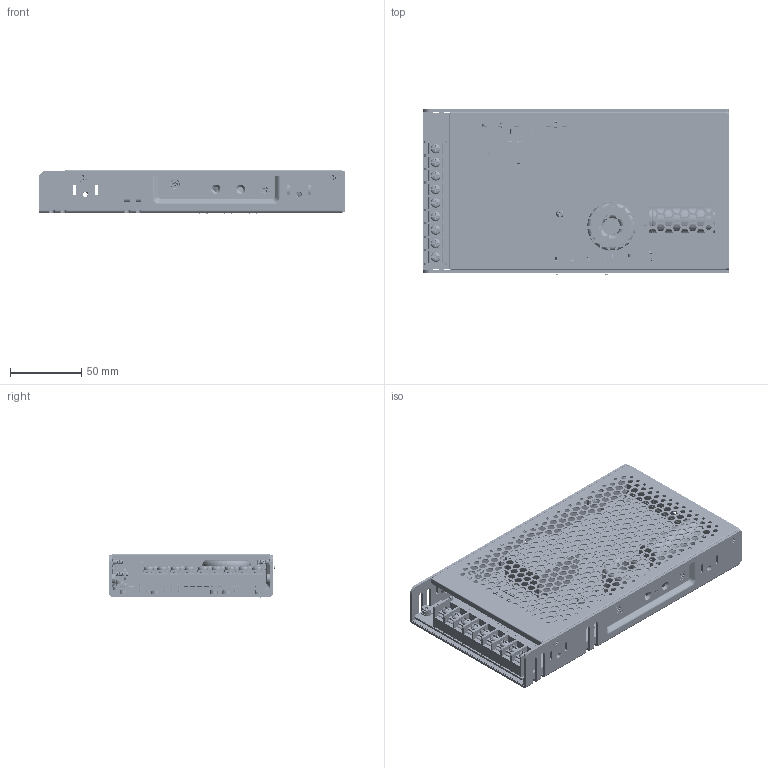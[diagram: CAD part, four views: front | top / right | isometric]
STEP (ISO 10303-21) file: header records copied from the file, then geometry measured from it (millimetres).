
FILE_DESCRIPTION((''),'2;1');
FILE_NAME('GSP200W-1','2025-08-01T',('Administrator'),(''),'PRO/ENGINEER BY PARAMETRIC TECHNOLOGY CORPORATION, 2014090','PRO/ENGINEER BY PARAMETRIC TECHNOLOGY CORPORATION, 2014090','');
FILE_SCHEMA(('CONFIG_CONTROL_DESIGN'));
Products named in the file (60): GSP350CW-BOTTOM-V6_9_A; LZ_3X6_2_6_A; GW-ICPS350W24AA-BOTTOM_ASM_4_AS; PRT0212_2_A; ASM1269_ASM_1_ASM_A; ASM1268_ASM_2_ASM_A; GW-GSP350WV0120240601_ASM_1_ASM; 1224042-PLASTIC_2_4_A; MFR-04424____1_2_A; MFR-04424-1____1_2_A; MFR-04424____ASM_1_ASM_2_ASM_A; M4-_1_2_A; M4_ASM_2_ASM_2_ASM_A; MFR-04424____ASM_1_ASM_2_ASM1_A; M4_ASM_2_ASM_2_ASM1_A; MFR-04424____ASM_1_ASM_2_ASM2_A; M4_ASM_2_ASM_2_ASM2_A; MFR-04424____ASM_1_ASM_2_ASM3_A; M4_ASM_2_ASM_2_ASM3_A; MFR-04424____ASM_1_ASM_2_ASM4_A; M4_ASM_2_ASM_2_ASM4_A; MFR-04424____ASM_1_ASM_2_ASM5_A; M4_ASM_2_ASM_2_ASM5_A; MFR-04424____ASM_1_ASM_2_ASM6_A; M4_ASM_2_ASM_2_ASM6_A; MFR-04424____ASM_1_ASM_2_ASM7_A; M4_ASM_2_ASM_2_ASM7_A; MFR-04424____ASM_1_ASM_2_ASM8_A; M4_ASM_2_ASM_2_ASM8_A; 1224042_ASM_3_ASM_2_ASM_A; 1224711_BKT_3_A; KM3X10_5_A; BKT-1_ASM_5_ASM_A; BKT-1_ASM_5_ASM1_A; M3X6_GB9074_4_2_A; CAPC2-7_5-18X45L__1_5__2_A; T201_1_A; TO-220-3-2_5-4_5MM_5_A; MANIFOLD_SOLID_BREP_155245_AF0_; MANIFOLD_SOLID_BREP_155593_AF0_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
Assembly tree (101 placements, depth 7):
  GSP200W-1
    GSP350W_A
      GW-ICPS350W24AA-BOTTOM_ASM_4_AS
        GSP350CW-BOTTOM-V6_9_A
        LZ_3X6_2_6_A  x5
      PCBA-GW-ICPS350W24AA_ASM_11_ASM
        GW-GSP350WV0120240601_ASM_1_ASM
          ASM1268_ASM_2_ASM_A
            ASM1269_ASM_1_ASM_A
              PRT0212_2_A
        1224042_ASM_3_ASM_2_ASM_A
          1224042-PLASTIC_2_4_A
          M4_ASM_2_ASM_2_ASM_A
            MFR-04424____ASM_1_ASM_2_ASM_A
              MFR-04424____1_2_A
              MFR-04424-1____1_2_A
            M4-_1_2_A
          M4_ASM_2_ASM_2_ASM1_A
            MFR-04424____ASM_1_ASM_2_ASM1_A
              MFR-04424____1_2_A
              MFR-04424-1____1_2_A
            M4-_1_2_A
          M4_ASM_2_ASM_2_ASM2_A
            MFR-04424____ASM_1_ASM_2_ASM2_A
              MFR-04424____1_2_A
              MFR-04424-1____1_2_A
            M4-_1_2_A
          M4_ASM_2_ASM_2_ASM3_A
            MFR-04424____ASM_1_ASM_2_ASM3_A
              MFR-04424____1_2_A
              MFR-04424-1____1_2_A
            M4-_1_2_A
          M4_ASM_2_ASM_2_ASM4_A
            MFR-04424____ASM_1_ASM_2_ASM4_A
              MFR-04424____1_2_A
              MFR-04424-1____1_2_A
            M4-_1_2_A
          M4_ASM_2_ASM_2_ASM5_A
            MFR-04424____ASM_1_ASM_2_ASM5_A
              MFR-04424____1_2_A
              MFR-04424-1____1_2_A
            M4-_1_2_A
          M4_ASM_2_ASM_2_ASM6_A
            MFR-04424____ASM_1_ASM_2_ASM6_A
              MFR-04424____1_2_A
              MFR-04424-1____1_2_A
            M4-_1_2_A
          M4_ASM_2_ASM_2_ASM7_A
            MFR-04424____ASM_1_ASM_2_ASM7_A
              MFR-04424____1_2_A
              MFR-04424-1____1_2_A
            M4-_1_2_A
          M4_ASM_2_ASM_2_ASM8_A
            MFR-04424____ASM_1_ASM_2_ASM8_A
              MFR-04424____1_2_A
              MFR-04424-1____1_2_A
            M4-_1_2_A
        BKT-1_ASM_5_ASM_A
          1224711_BKT_3_A
          KM3X10_5_A
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Bounding box: 215 x 116.5 x 30.88 mm (x, y, z)
Volume: 195128.5 mm3; surface area: 254358.9 mm2
Topology: 70 solids, 79 shells, 6618 faces, 20575 edges, 14164 vertices
Faces by surface type: plane 4780, cylinder 1343, cone 205, bspline 173, torus 68, sphere 28, extrusion 21
Entity records: 251577 total; most frequent: CARTESIAN_POINT 57125, ORIENTED_EDGE 31956, DIRECTION 29150, EDGE_CURVE 15995, PRESENTATION_STYLE_ASSIGNMENT 14930, STYLED_ITEM 14930, CURVE_STYLE 14838, VECTOR 11914
